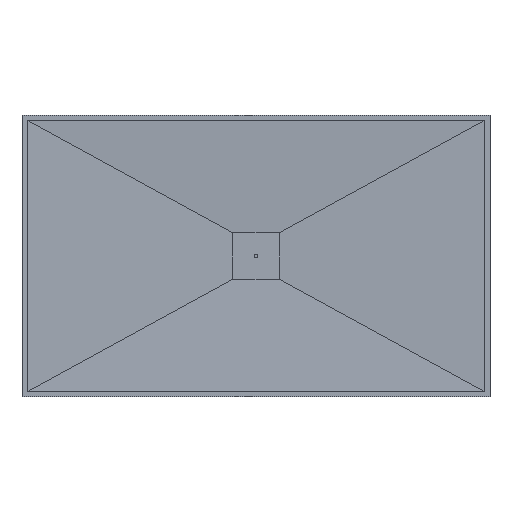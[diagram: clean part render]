
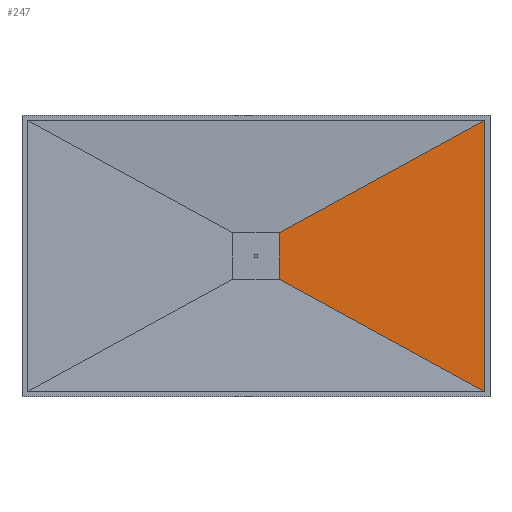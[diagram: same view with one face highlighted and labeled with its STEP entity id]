
A CAD part, top view. The second image highlights one B-rep face of the part: STEP entity #247.
In plain terms, the highlighted planar face has unit normal (-0.026, 0, 1).
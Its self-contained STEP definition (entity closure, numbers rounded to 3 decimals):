
#54=PLANE('',#282);
#67=FACE_OUTER_BOUND('',#82,.T.);
#82=EDGE_LOOP('',(#224,#225,#226,#227));
#99=LINE('',#380,#124);
#105=LINE('',#392,#130);
#107=LINE('',#395,#132);
#108=LINE('',#397,#133);
#124=VECTOR('',#321,10.);
#130=VECTOR('',#329,10.);
#132=VECTOR('',#333,10.);
#133=VECTOR('',#336,10.);
#148=VERTEX_POINT('',#377);
#149=VERTEX_POINT('',#379);
#152=VERTEX_POINT('',#386);
#154=VERTEX_POINT('',#390);
#171=EDGE_CURVE('',#148,#149,#99,.T.);
#177=EDGE_CURVE('',#152,#154,#105,.T.);
#179=EDGE_CURVE('',#148,#152,#107,.T.);
#180=EDGE_CURVE('',#149,#154,#108,.T.);
#224=ORIENTED_EDGE('',*,*,#171,.F.);
#225=ORIENTED_EDGE('',*,*,#179,.T.);
#226=ORIENTED_EDGE('',*,*,#177,.T.);
#227=ORIENTED_EDGE('',*,*,#180,.F.);
#247=ADVANCED_FACE('',(#67),#54,.F.);
#282=AXIS2_PLACEMENT_3D('',#396,#334,#335);
#321=DIRECTION('',(0.,-1.,0.));
#329=DIRECTION('',(0.,-1.,0.));
#333=DIRECTION('',(-0.877,-0.48,-0.023));
#334=DIRECTION('center_axis',(0.026,0.,-1.));
#335=DIRECTION('ref_axis',(-1.,0.,-0.026));
#336=DIRECTION('',(-0.877,0.48,-0.023));
#377=CARTESIAN_POINT('',(746.3,277.2,18.75));
#379=CARTESIAN_POINT('',(746.3,-611.8,18.75));
#380=CARTESIAN_POINT('',(746.3,54.85,18.75));
#386=CARTESIAN_POINT('',(73.5,-90.8,1.25));
#390=CARTESIAN_POINT('',(73.5,-243.8,1.25));
#392=CARTESIAN_POINT('',(73.5,-90.8,1.25));
#395=CARTESIAN_POINT('',(746.3,277.2,18.75));
#396=CARTESIAN_POINT('Origin',(746.3,277.2,18.75));
#397=CARTESIAN_POINT('',(746.3,-611.8,18.75));
